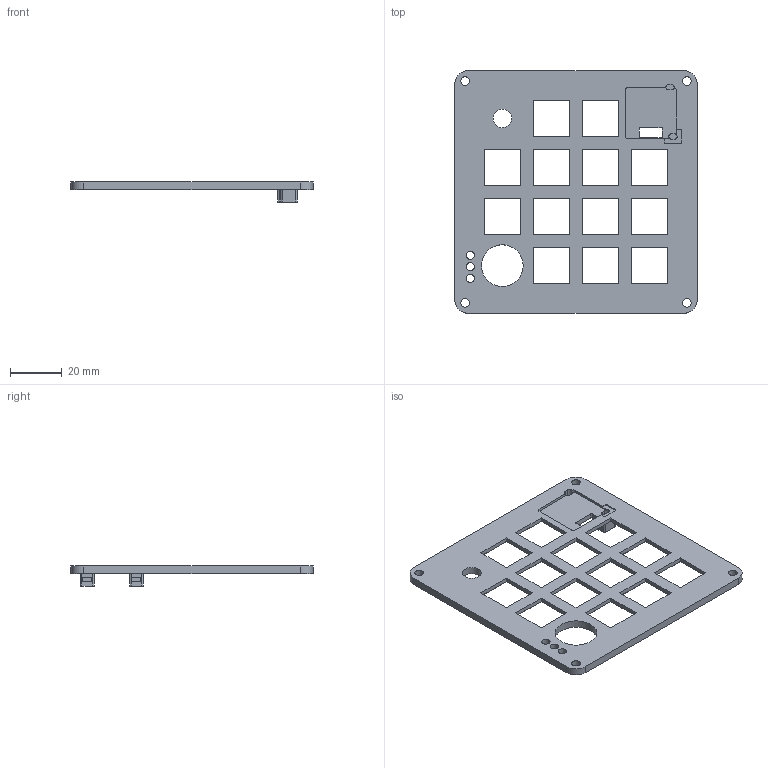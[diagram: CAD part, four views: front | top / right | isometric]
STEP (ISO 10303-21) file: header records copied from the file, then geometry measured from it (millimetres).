
FILE_DESCRIPTION(('Open CASCADE Model'),'2;1');
FILE_NAME('Open CASCADE Shape Model','2026-09-14T09:43:59',('Author'),( 'Open CASCADE'),'Open CASCADE STEP processor 7.9','Open CASCADE 7.9' ,'Unknown');
FILE_SCHEMA(('AUTOMOTIVE_DESIGN { 1 0 10303 214 1 1 1 1 }'));
Length unit declared in the file: millimetre
Products named in the file (1): Open CASCADE STEP translator 7.9 2
Bounding box: 94 x 94 x 7.8 mm (x, y, z)
Volume: 15960.4 mm3; surface area: 16255.7 mm2
Topology: 1 solids, 1 shells, 211 faces, 573 edges, 382 vertices
Faces by surface type: plane 172, cylinder 39
Full cylindrical faces by diameter (mm): 3.2 x3, 3.4 x4, 7.2 x1, 16.2 x1
Entity records: 14194 total; most frequent: CARTESIAN_POINT 2683, DIRECTION 2087, LINE 1457, VECTOR 1457, ORIENTED_EDGE 1146, PCURVE 1146, DEFINITIONAL_REPRESENTATION 1146, EDGE_CURVE 573
